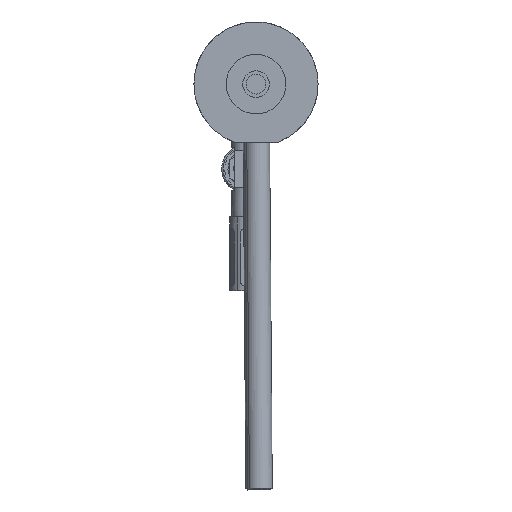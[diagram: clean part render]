
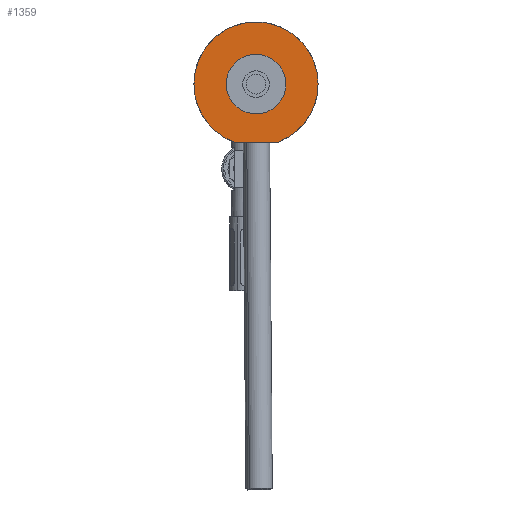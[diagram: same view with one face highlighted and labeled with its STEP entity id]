
A CAD part, front view. The second image highlights one B-rep face of the part: STEP entity #1359.
In plain terms, the highlighted planar face has unit normal (0, -1, 0).
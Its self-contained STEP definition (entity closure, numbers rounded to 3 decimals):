
#608 = PLANE ( 'NONE',  #11229 ) ;
#667 = DIRECTION ( 'NONE',  ( 0., 1., 0. ) ) ;
#820 = VERTEX_POINT ( 'NONE', #5544 ) ;
#979 = EDGE_CURVE ( 'NONE', #7949, #820, #5088, .T. ) ;
#1088 = CARTESIAN_POINT ( 'NONE',  ( 0., 0., -18. ) ) ;
#1137 = CARTESIAN_POINT ( 'NONE',  ( 0., 0., -35.115 ) ) ;
#1191 = CARTESIAN_POINT ( 'NONE',  ( 0., 0., 0. ) ) ;
#1269 = AXIS2_PLACEMENT_3D ( 'NONE', #7169, #1555, #8118 ) ;
#1359 = ADVANCED_FACE ( 'NONE', ( #10626, #8433 ), #608, .F. ) ;
#1471 = CIRCLE ( 'NONE', #1269, 18. ) ;
#1555 = DIRECTION ( 'NONE',  ( 0., -1., 0. ) ) ;
#2104 = DIRECTION ( 'NONE',  ( 0., 0., 1. ) ) ;
#2263 = ORIENTED_EDGE ( 'NONE', *, *, #7181, .F. ) ;
#2330 = AXIS2_PLACEMENT_3D ( 'NONE', #6236, #667, #7171 ) ;
#2437 = DIRECTION ( 'NONE',  ( 0., 0., 1. ) ) ;
#3041 = CARTESIAN_POINT ( 'NONE',  ( -13.159, 0., -35.115 ) ) ;
#3131 = CIRCLE ( 'NONE', #2330, 37.5 ) ;
#3240 = ORIENTED_EDGE ( 'NONE', *, *, #979, .T. ) ;
#3585 = ORIENTED_EDGE ( 'NONE', *, *, #4070, .F. ) ;
#3763 = CIRCLE ( 'NONE', #7276, 18. ) ;
#3871 = VERTEX_POINT ( 'NONE', #4648 ) ;
#3940 = EDGE_LOOP ( 'NONE', ( #2263, #3585 ) ) ;
#4070 = EDGE_CURVE ( 'NONE', #11412, #3871, #3763, .T. ) ;
#4281 = CARTESIAN_POINT ( 'NONE',  ( 0., 0., 0. ) ) ;
#4648 = CARTESIAN_POINT ( 'NONE',  ( 0., 0., 18. ) ) ;
#4821 = EDGE_CURVE ( 'NONE', #7949, #820, #3131, .T. ) ;
#5088 = LINE ( 'NONE', #1137, #9753 ) ;
#5544 = CARTESIAN_POINT ( 'NONE',  ( 13.159, 0., -35.115 ) ) ;
#5767 = ORIENTED_EDGE ( 'NONE', *, *, #4821, .F. ) ;
#6236 = CARTESIAN_POINT ( 'NONE',  ( 0., 0., 0. ) ) ;
#7169 = CARTESIAN_POINT ( 'NONE',  ( 0., 0., 0. ) ) ;
#7171 = DIRECTION ( 'NONE',  ( 0., 0., 1. ) ) ;
#7181 = EDGE_CURVE ( 'NONE', #3871, #11412, #1471, .T. ) ;
#7276 = AXIS2_PLACEMENT_3D ( 'NONE', #1191, #7733, #2104 ) ;
#7675 = DIRECTION ( 'NONE',  ( 1., 0., 0. ) ) ;
#7733 = DIRECTION ( 'NONE',  ( 0., -1., 0. ) ) ;
#7949 = VERTEX_POINT ( 'NONE', #3041 ) ;
#8055 = DIRECTION ( 'NONE',  ( 0., 1., 0. ) ) ;
#8118 = DIRECTION ( 'NONE',  ( 0., 0., 1. ) ) ;
#8433 = FACE_OUTER_BOUND ( 'NONE', #11560, .T. ) ;
#9753 = VECTOR ( 'NONE', #7675, 1000. ) ;
#10626 = FACE_BOUND ( 'NONE', #3940, .T. ) ;
#11229 = AXIS2_PLACEMENT_3D ( 'NONE', #4281, #8055, #2437 ) ;
#11412 = VERTEX_POINT ( 'NONE', #1088 ) ;
#11560 = EDGE_LOOP ( 'NONE', ( #5767, #3240 ) ) ;
